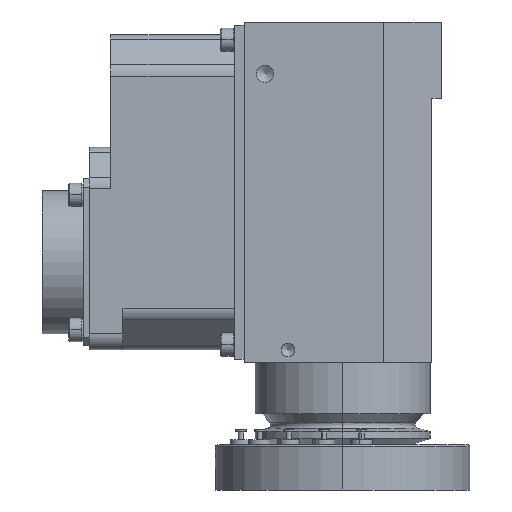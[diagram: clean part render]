
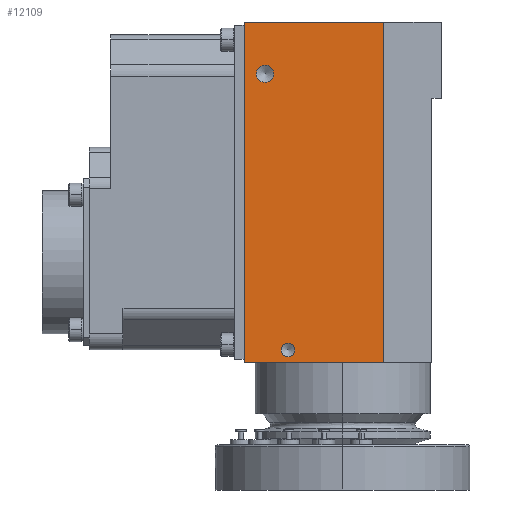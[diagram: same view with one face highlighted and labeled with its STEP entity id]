
A CAD part, left-side view. The second image highlights one B-rep face of the part: STEP entity #12109.
In plain terms, the highlighted planar face has unit normal (-1, 0, 0).
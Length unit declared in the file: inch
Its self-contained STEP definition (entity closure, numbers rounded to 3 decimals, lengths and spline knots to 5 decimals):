
#617 = PLANE ( 'NONE',  #9192 ) ;
#767 = DIRECTION ( 'NONE',  ( 0., 0., 1. ) ) ;
#973 = CARTESIAN_POINT ( 'NONE',  ( -0.775, 0.61, 3.27 ) ) ;
#1113 = DIRECTION ( 'NONE',  ( -1., 0., 0. ) ) ;
#1695 = CARTESIAN_POINT ( 'NONE',  ( -0.775, 0.775, 0.5972 ) ) ;
#2330 = EDGE_LOOP ( 'NONE', ( #20084 ) ) ;
#2399 = VERTEX_POINT ( 'NONE', #15933 ) ;
#2535 = DIRECTION ( 'NONE',  ( -1., 0., 0. ) ) ;
#2549 = VERTEX_POINT ( 'NONE', #11896 ) ;
#2917 = DIRECTION ( 'NONE',  ( 0., 1., 0. ) ) ;
#3306 = CARTESIAN_POINT ( 'NONE',  ( -0.775, -0.32102, 3.6762 ) ) ;
#5581 = CARTESIAN_POINT ( 'NONE',  ( -0.775, 0.775, 3.6762 ) ) ;
#6547 = DIRECTION ( 'NONE',  ( 0., 0., 1. ) ) ;
#7706 = CARTESIAN_POINT ( 'NONE',  ( -0.775, -0.32102, 3.6762 ) ) ;
#7920 = ORIENTED_EDGE ( 'NONE', *, *, #23339, .T. ) ;
#8029 = CARTESIAN_POINT ( 'NONE',  ( -0.775, -0.32102, 0.5972 ) ) ;
#9049 = LINE ( 'NONE', #16084, #21174 ) ;
#9077 = CIRCLE ( 'NONE', #11762, 0.068 ) ;
#9192 = AXIS2_PLACEMENT_3D ( 'NONE', #9348, #22550, #2917 ) ;
#9235 = EDGE_LOOP ( 'NONE', ( #7920, #12417, #14666, #24150 ) ) ;
#9348 = CARTESIAN_POINT ( 'NONE',  ( -0.775, -0.32102, 0.5972 ) ) ;
#9403 = VERTEX_POINT ( 'NONE', #5581 ) ;
#10037 = EDGE_CURVE ( 'NONE', #2549, #9403, #17042, .T. ) ;
#10386 = EDGE_CURVE ( 'NONE', #11063, #11063, #10886, .T. ) ;
#10511 = LINE ( 'NONE', #7706, #11231 ) ;
#10886 = CIRCLE ( 'NONE', #23721, 0.05325 ) ;
#11063 = VERTEX_POINT ( 'NONE', #19808 ) ;
#11231 = VECTOR ( 'NONE', #23832, 39.37008 ) ;
#11670 = EDGE_CURVE ( 'NONE', #2399, #2549, #9049, .T. ) ;
#11762 = AXIS2_PLACEMENT_3D ( 'NONE', #973, #1113, #27191 ) ;
#11896 = CARTESIAN_POINT ( 'NONE',  ( -0.775, 0.775, 1.0022 ) ) ;
#12109 = ADVANCED_FACE ( 'NONE', ( #26843, #22417, #18932 ), #617, .F. ) ;
#12166 = EDGE_CURVE ( 'NONE', #2399, #24528, #14111, .T. ) ;
#12417 = ORIENTED_EDGE ( 'NONE', *, *, #10037, .F. ) ;
#14111 = LINE ( 'NONE', #8029, #25698 ) ;
#14666 = ORIENTED_EDGE ( 'NONE', *, *, #11670, .F. ) ;
#15933 = CARTESIAN_POINT ( 'NONE',  ( -0.775, -0.32102, 1.0022 ) ) ;
#15968 = EDGE_CURVE ( 'NONE', #22253, #22253, #9077, .T. ) ;
#16084 = CARTESIAN_POINT ( 'NONE',  ( -0.775, -0.32102, 1.0022 ) ) ;
#17042 = LINE ( 'NONE', #1695, #23698 ) ;
#17257 = CARTESIAN_POINT ( 'NONE',  ( -0.775, 0.61, 3.338 ) ) ;
#18248 = DIRECTION ( 'NONE',  ( 0., 1., 0. ) ) ;
#18932 = FACE_OUTER_BOUND ( 'NONE', #9235, .T. ) ;
#19808 = CARTESIAN_POINT ( 'NONE',  ( -0.775, 0.43, 1.15325 ) ) ;
#20084 = ORIENTED_EDGE ( 'NONE', *, *, #15968, .F. ) ;
#20279 = EDGE_LOOP ( 'NONE', ( #25184 ) ) ;
#21174 = VECTOR ( 'NONE', #18248, 39.37008 ) ;
#22253 = VERTEX_POINT ( 'NONE', #17257 ) ;
#22417 = FACE_BOUND ( 'NONE', #20279, .T. ) ;
#22550 = DIRECTION ( 'NONE',  ( 1., 0., 0. ) ) ;
#23050 = DIRECTION ( 'NONE',  ( 0., 0., 1. ) ) ;
#23339 = EDGE_CURVE ( 'NONE', #24528, #9403, #10511, .T. ) ;
#23698 = VECTOR ( 'NONE', #23050, 39.37008 ) ;
#23721 = AXIS2_PLACEMENT_3D ( 'NONE', #26176, #2535, #6547 ) ;
#23832 = DIRECTION ( 'NONE',  ( 0., 1., 0. ) ) ;
#24150 = ORIENTED_EDGE ( 'NONE', *, *, #12166, .T. ) ;
#24528 = VERTEX_POINT ( 'NONE', #3306 ) ;
#25184 = ORIENTED_EDGE ( 'NONE', *, *, #10386, .F. ) ;
#25698 = VECTOR ( 'NONE', #767, 39.37008 ) ;
#26176 = CARTESIAN_POINT ( 'NONE',  ( -0.775, 0.43, 1.1 ) ) ;
#26843 = FACE_BOUND ( 'NONE', #2330, .T. ) ;
#27191 = DIRECTION ( 'NONE',  ( 0., 0., 1. ) ) ;
